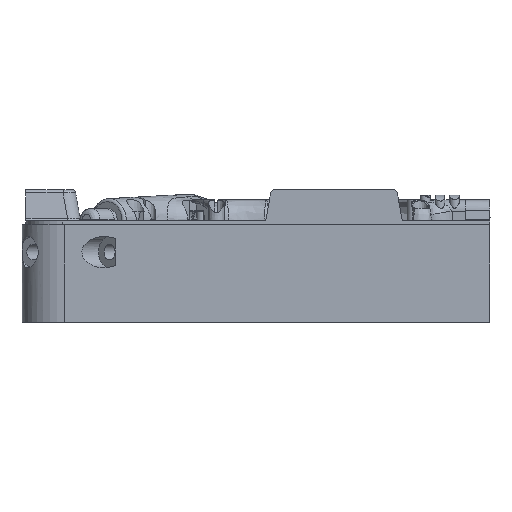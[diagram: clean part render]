
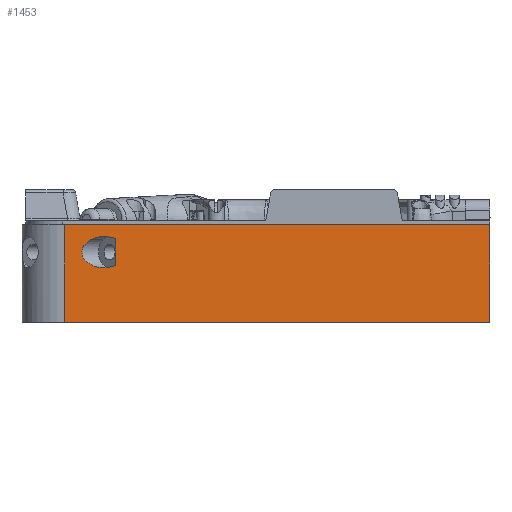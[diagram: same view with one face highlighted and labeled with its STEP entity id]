
A CAD part, left-side view. The second image highlights one B-rep face of the part: STEP entity #1453.
In plain terms, the highlighted planar face has unit normal (-1, 0, 0).
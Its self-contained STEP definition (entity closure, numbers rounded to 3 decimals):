
#1453=ADVANCED_FACE('',(#3692,#3693),#3694,.T.);
#3692=FACE_OUTER_BOUND('',#15571,.T.);
#3693=FACE_BOUND('',#15572,.T.);
#3694=PLANE('',#15573);
#15571=EDGE_LOOP('',(#69211,#69212,#69213,#69214));
#15572=EDGE_LOOP('',(#69215,#69216,#69217));
#15573=AXIS2_PLACEMENT_3D('',#69218,#69219,#69220);
#69211=ORIENTED_EDGE('',*,*,#90267,.T.);
#69212=ORIENTED_EDGE('',*,*,#89979,.T.);
#69213=ORIENTED_EDGE('',*,*,#90268,.T.);
#69214=ORIENTED_EDGE('',*,*,#88874,.T.);
#69215=ORIENTED_EDGE('',*,*,#90085,.T.);
#69216=ORIENTED_EDGE('',*,*,#90089,.T.);
#69217=ORIENTED_EDGE('',*,*,#90087,.T.);
#69218=CARTESIAN_POINT('',(-120.0,0.,-68.0));
#69219=DIRECTION('',(-1.0,0.,0.0));
#69220=DIRECTION('',(0.,-1.0,0.0));
#88874=EDGE_CURVE('',#92377,#92378,#92379,.F.);
#89979=EDGE_CURVE('',#94291,#94289,#94292,.T.);
#90085=EDGE_CURVE('',#94462,#94460,#94463,.T.);
#90087=EDGE_CURVE('',#94459,#94462,#94465,.T.);
#90089=EDGE_CURVE('',#94460,#94459,#94467,.F.);
#90267=EDGE_CURVE('',#92378,#94291,#94702,.T.);
#90268=EDGE_CURVE('',#94289,#92377,#94703,.T.);
#92377=VERTEX_POINT('',#97612);
#92378=VERTEX_POINT('',#97613);
#92379=LINE('',#97614,#97615);
#94289=VERTEX_POINT('',#104856);
#94291=VERTEX_POINT('',#104859);
#94292=LINE('',#104860,#104861);
#94459=VERTEX_POINT('',#105617);
#94460=VERTEX_POINT('',#105618);
#94462=VERTEX_POINT('',#105620);
#94463=LINE('',#105621,#105622);
#94465=LINE('',#105624,#105625);
#94467=ELLIPSE('',#105627,11.314,8.0);
#94702=LINE('',#106367,#106368);
#94703=LINE('',#106369,#106370);
#97612=CARTESIAN_POINT('',(-120.0,98.,-18.0));
#97613=CARTESIAN_POINT('',(-120.0,98.,-68.0));
#97614=CARTESIAN_POINT('',(-120.0,98.,-68.0));
#97615=VECTOR('',#115712,1.0);
#104856=CARTESIAN_POINT('',(-120.0,-120.,-18.0));
#104859=CARTESIAN_POINT('',(-120.0,-120.,-68.0));
#104860=CARTESIAN_POINT('',(-120.0,-120.,-68.0));
#104861=VECTOR('',#116715,1.0);
#105617=CARTESIAN_POINT('',(-120.0,72.282,-25.072));
#105618=CARTESIAN_POINT('',(-120.0,72.282,-38.928));
#105620=CARTESIAN_POINT('',(-120.0,72.282,-32.0));
#105621=CARTESIAN_POINT('',(-120.0,72.282,-68.0));
#105622=VECTOR('',#116777,1.0);
#105624=CARTESIAN_POINT('',(-120.0,72.282,-68.0));
#105625=VECTOR('',#116781,1.0);
#105627=AXIS2_PLACEMENT_3D('',#116782,#116783,#116784);
#106367=CARTESIAN_POINT('',(-120.0,0.,-68.0));
#106368=VECTOR('',#117039,1.0);
#106369=CARTESIAN_POINT('',(-120.0,0.,-18.0));
#106370=VECTOR('',#117040,1.0);
#115712=DIRECTION('',(0.0,0.0,1.0));
#116715=DIRECTION('',(0.0,0.0,1.0));
#116777=DIRECTION('',(0.0,0.0,-1.0));
#116781=DIRECTION('',(0.0,0.0,-1.0));
#116782=CARTESIAN_POINT('',(-120.0,77.938,-32.0));
#116783=DIRECTION('',(-1.0,0.,0.0));
#116784=DIRECTION('',(0.,-1.0,0.0));
#117039=DIRECTION('',(0.,-1.0,0.0));
#117040=DIRECTION('',(0.,1.0,0.0));
